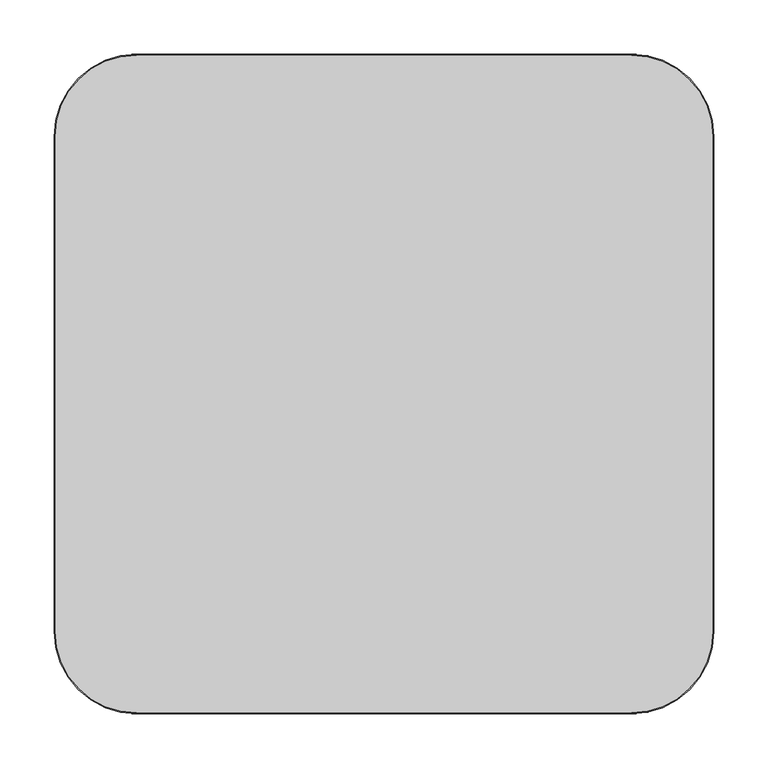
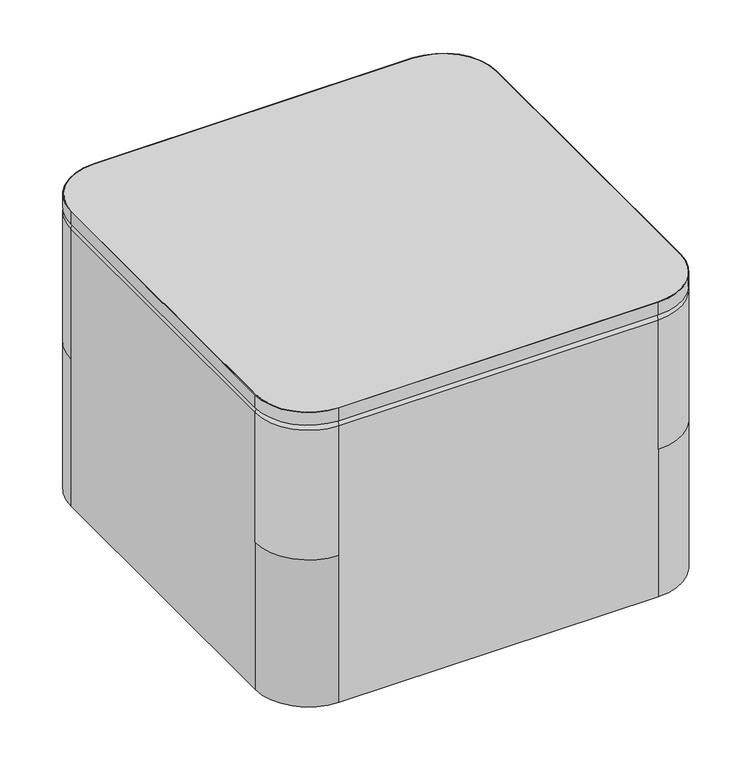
"""IFC4 building model written with IfcOpenShell, lengths in millimetres: furniture geometry, Indiana-Otty-Ottoman_Square_Table : 840-2418SOT."""

from ifc_helpers import new_model, si_unit, point, frame, frame_2d, origin, place, context, project, spatial, polyline, circle_curve, ellipse_curve, trimmed, segment, composite_curve, outline, extrude, source, transform, mapped, element, save
from ifc_brep_helpers import plane_surface, cylinder_surface, revolved_surface, advanced_brep


def furniture_fd8d8a9c(model_context):
    return source(origin(), model_context, "Body", "SolidModel", [
        extrude(outline(composite_curve([segment(trimmed(circle_curve(frame_2d((228.6, 228.6)), 75.2078125), [point((228.6, 303.8078125))], [point((303.8078125, 228.6))], False, "CARTESIAN"), True, "CONTINUOUS"), segment(polyline([(303.8078125, 228.6), (303.8078125, -228.6)]), True, "CONTINUOUS"), segment(trimmed(circle_curve(frame_2d((228.6, -228.6)), 75.2078125), [point((303.8078125, -228.6))], [point((228.6, -303.8078125))], False, "CARTESIAN"), True, "CONTINUOUS"), segment(polyline([(228.6, -303.8078125), (-228.6, -303.8078125)]), True, "CONTINUOUS"), segment(trimmed(circle_curve(frame_2d((-228.6, -228.6)), 75.2078125), [point((-228.6, -303.8078125))], [point((-303.8078125, -228.6))], False, "CARTESIAN"), True, "CONTINUOUS"), segment(polyline([(-303.8078125, -228.6), (-303.8078125, 228.6)]), True, "CONTINUOUS"), segment(trimmed(circle_curve(frame_2d((-228.6, 228.6)), 75.2078125), [point((-303.8078125, 228.6))], [point((-228.6, 303.8078125))], False, "CARTESIAN"), True, "CONTINUOUS"), segment(polyline([(-228.6, 303.8078125), (228.6, 303.8078125)]), True, "CONTINUOUS")], self_intersect=False)), frame((0.0, 0.0, 438.15), z_axis=(0.0, 0.0, 1.0), x_axis=(1.0, 0.0, 0.0)), (0.0, 0.0, 1.0), 19.05),
        extrude(outline(composite_curve([segment(polyline([(-304.8, -228.6), (-304.8, 228.6)]), True, "CONTINUOUS"), segment(trimmed(circle_curve(frame_2d((-228.6, 228.6)), 76.2), [point((-304.8, 228.6))], [point((-228.6, 304.8))], False, "CARTESIAN"), True, "CONTINUOUS"), segment(polyline([(-228.6, 304.8), (228.6, 304.8)]), True, "CONTINUOUS"), segment(trimmed(circle_curve(frame_2d((228.6, 228.6)), 76.2), [point((228.6, 304.8))], [point((304.8, 228.6))], False, "CARTESIAN"), True, "CONTINUOUS"), segment(polyline([(304.8, 228.6), (304.8, -228.6)]), True, "CONTINUOUS"), segment(trimmed(circle_curve(frame_2d((228.6, -228.6)), 76.2), [point((304.8, -228.6))], [point((228.6, -304.8))], False, "CARTESIAN"), True, "CONTINUOUS"), segment(polyline([(228.6, -304.8), (-228.6, -304.8)]), True, "CONTINUOUS"), segment(trimmed(circle_curve(frame_2d((-228.6, -228.6)), 76.2), [point((-228.6, -304.8))], [point((-304.8, -228.6))], False, "CARTESIAN"), True, "CONTINUOUS")], self_intersect=False), holes=[composite_curve([segment(polyline([(228.6, 303.8078125), (-228.6, 303.8078125)]), True, "CONTINUOUS"), segment(trimmed(circle_curve(frame_2d((-228.6, 228.6)), 75.2078125), [point((-228.6, 303.8078125))], [point((-303.8078125, 228.6))], True, "CARTESIAN"), True, "CONTINUOUS"), segment(polyline([(-303.8078125, 228.6), (-303.8078125, -228.6)]), True, "CONTINUOUS"), segment(trimmed(circle_curve(frame_2d((-228.6, -228.6)), 75.2078125), [point((-303.8078125, -228.6))], [point((-228.6, -303.8078125))], True, "CARTESIAN"), True, "CONTINUOUS"), segment(polyline([(-228.6, -303.8078125), (228.6, -303.8078125)]), True, "CONTINUOUS"), segment(trimmed(circle_curve(frame_2d((228.6, -228.6)), 75.2078125), [point((228.6, -303.8078125))], [point((303.8078125, -228.6))], True, "CARTESIAN"), True, "CONTINUOUS"), segment(polyline([(303.8078125, -228.6), (303.8078125, 228.6)]), True, "CONTINUOUS"), segment(trimmed(circle_curve(frame_2d((228.6, 228.6)), 75.2078125), [point((303.8078125, 228.6))], [point((228.6, 303.8078125))], True, "CARTESIAN"), True, "CONTINUOUS")], self_intersect=False)]), frame((0.0, 0.0, 438.15), z_axis=(0.0, 0.0, 1.0), x_axis=(1.0, 0.0, 0.0)), (0.0, 0.0, 1.0), 19.05),
        advanced_brep(
        [(0.0, -250.825, 19.8875), (0.0, -273.325, 19.8875), (0.0, -228.325, 19.8875), (0.0, -272.8765082, 4.2458827), (0.0, -228.7734918, 4.2458827), (0.0, -268.3913665, -0.1125), (0.0, -233.2586335, -0.1125), (0.0, -261.0926178, -0.1125), (0.0, -240.5573822, -0.1125), (0.0, -257.1981417, 3.9179615), (0.0, -244.4518583, 3.9179615), (0.0, -250.825, 3.9179615)],
        [
            (0, 1),
            (1, 2, circle_curve(frame((0.0, -250.825, 19.8875), z_axis=(0.0, 0.0, 1.0), x_axis=(0.0, -1.0, 0.0)), 22.5)),
            (2, 0),
            (2, 1, circle_curve(frame((0.0, -250.825, 19.8875), z_axis=(0.0, 0.0, 1.0), x_axis=(0.0, -1.0, 0.0)), 22.5)),
            (1, 3),
            (3, 4, circle_curve(frame((0.0, -250.825, 4.2458827), z_axis=(0.0, 0.0, 1.0), x_axis=(0.0, -1.0, 0.0)), 22.0515082)),
            (4, 2),
            (4, 3, circle_curve(frame((0.0, -250.825, 4.2458827), z_axis=(0.0, 0.0, 1.0), x_axis=(0.0, -1.0, 0.0)), 22.0515082)),
            (3, 5, circle_curve(frame((0.0, -268.3913665, 4.3744851), z_axis=(1.0, 0.0, 0.0), x_axis=(0.0, 1.0, 0.0)), 4.4869851)),
            (5, 6, circle_curve(frame((0.0, -250.825, -0.1125), z_axis=(0.0, 0.0, 1.0), x_axis=(0.0, -1.0, 0.0)), 17.5663665)),
            (6, 4, circle_curve(frame((0.0, -233.2586335, 4.3744851), z_axis=(1.0, 0.0, 0.0), x_axis=(0.0, -1.0, 0.0)), 4.4869851)),
            (6, 5, circle_curve(frame((0.0, -250.825, -0.1125), z_axis=(0.0, 0.0, 1.0), x_axis=(0.0, -1.0, 0.0)), 17.5663665)),
            (5, 7),
            (7, 8, circle_curve(frame((0.0, -250.825, -0.1125), z_axis=(0.0, 0.0, 1.0), x_axis=(0.0, -1.0, 0.0)), 10.2676178)),
            (8, 6),
            (8, 7, circle_curve(frame((0.0, -250.825, -0.1125), z_axis=(0.0, 0.0, 1.0), x_axis=(0.0, -1.0, 0.0)), 10.2676178)),
            (7, 9, circle_curve(frame((0.0, -261.0926178, 3.7842702), z_axis=(1.0, 0.0, 0.0), x_axis=(0.0, 1.0, 0.0)), 3.8967702)),
            (9, 10, circle_curve(frame((0.0, -250.825, 3.9179615), z_axis=(0.0, 0.0, 1.0), x_axis=(0.0, -1.0, 0.0)), 6.3731417)),
            (10, 8, circle_curve(frame((0.0, -240.5573822, 3.7842702), z_axis=(1.0, 0.0, 0.0), x_axis=(0.0, -1.0, 0.0)), 3.8967702)),
            (10, 9, circle_curve(frame((0.0, -250.825, 3.9179615), z_axis=(0.0, 0.0, 1.0), x_axis=(0.0, -1.0, 0.0)), 6.3731417)),
            (9, 11),
            (11, 10),
        ],
        [
            plane_surface(frame((0.0, -250.825, 19.8875), z_axis=(0.0, 0.0, 1.0), x_axis=(0.0, -1.0, 0.0))),
            revolved_surface(polyline([(0.0, -272.8765082, 4.2458827), (0.0, -273.325, 19.8875)]), (0.0, -250.825, 31.0803862), (0.0, 0.0, 1.0)),
            revolved_surface(trimmed(ellipse_curve(frame((0.0, -268.3913665, 4.3744851), z_axis=(-1.0, 0.0, 0.0), x_axis=(0.0, 1.0, 0.0)), 4.4869851, 4.4869851), [point((0.0, -268.3913665, -0.1125))], [point((0.0, -272.8765082, 4.2458827))], True, "CARTESIAN"), (0.0, -250.825, 31.0803862), (0.0, 0.0, 1.0)),
            plane_surface(frame((0.0, -250.825, -0.1125), z_axis=(0.0, 0.0, -1.0), x_axis=(0.0, -1.0, 0.0))),
            revolved_surface(trimmed(ellipse_curve(frame((0.0, -261.0926178, 3.7842702), z_axis=(-1.0, 0.0, 0.0), x_axis=(0.0, 1.0, 0.0)), 3.8967702, 3.8967702), [point((0.0, -257.1981417, 3.9179615))], [point((0.0, -261.0926178, -0.1125))], True, "CARTESIAN"), (0.0, -250.825, 31.0803862), (0.0, 0.0, 1.0)),
            plane_surface(frame((0.0, -250.825, 3.9179615), z_axis=(0.0, 0.0, -1.0), x_axis=(0.0, -1.0, 0.0))),
        ],
        [
            (0, [[1, 2, 3]]),
            (0, [[-3, 4, -1]]),
            (1, [[-2, 5, 6, 7]]),
            (1, [[-4, -7, 8, -5]]),
            (2, [[-6, 9, 10, 11]]),
            (2, [[-8, -11, 12, -9]]),
            (3, [[-10, 13, 14, 15]]),
            (3, [[-12, -15, 16, -13]]),
            (4, [[-14, 17, 18, 19]]),
            (4, [[-16, -19, 20, -17]]),
            (5, [[-18, 21, 22]]),
            (5, [[-20, -22, -21]]),
        ],
    ),
        advanced_brep(
        [(0.0, 250.825, 19.8875), (0.0, 228.325, 19.8875), (0.0, 273.325, 19.8875), (0.0, 228.7734918, 4.2458827), (0.0, 272.8765082, 4.2458827), (0.0, 233.2586335, -0.1125), (0.0, 268.3913665, -0.1125), (0.0, 240.5573822, -0.1125), (0.0, 261.0926178, -0.1125), (0.0, 244.4518583, 3.9179615), (0.0, 257.1981417, 3.9179615), (0.0, 250.825, 3.9179615)],
        [
            (0, 1),
            (1, 2, circle_curve(frame((0.0, 250.825, 19.8875), z_axis=(0.0, 0.0, 1.0), x_axis=(0.0, -1.0, 0.0)), 22.5)),
            (2, 0),
            (2, 1, circle_curve(frame((0.0, 250.825, 19.8875), z_axis=(0.0, 0.0, 1.0), x_axis=(0.0, -1.0, 0.0)), 22.5)),
            (1, 3),
            (3, 4, circle_curve(frame((0.0, 250.825, 4.2458827), z_axis=(0.0, 0.0, 1.0), x_axis=(0.0, -1.0, 0.0)), 22.0515082)),
            (4, 2),
            (4, 3, circle_curve(frame((0.0, 250.825, 4.2458827), z_axis=(0.0, 0.0, 1.0), x_axis=(0.0, -1.0, 0.0)), 22.0515082)),
            (3, 5, circle_curve(frame((0.0, 233.2586335, 4.3744851), z_axis=(1.0, 0.0, 0.0), x_axis=(0.0, 1.0, 0.0)), 4.4869851)),
            (5, 6, circle_curve(frame((0.0, 250.825, -0.1125), z_axis=(0.0, 0.0, 1.0), x_axis=(0.0, -1.0, 0.0)), 17.5663665)),
            (6, 4, circle_curve(frame((0.0, 268.3913665, 4.3744851), z_axis=(1.0, 0.0, 0.0), x_axis=(0.0, -1.0, 0.0)), 4.4869851)),
            (6, 5, circle_curve(frame((0.0, 250.825, -0.1125), z_axis=(0.0, 0.0, 1.0), x_axis=(0.0, -1.0, 0.0)), 17.5663665)),
            (5, 7),
            (7, 8, circle_curve(frame((0.0, 250.825, -0.1125), z_axis=(0.0, 0.0, 1.0), x_axis=(0.0, -1.0, 0.0)), 10.2676178)),
            (8, 6),
            (8, 7, circle_curve(frame((0.0, 250.825, -0.1125), z_axis=(0.0, 0.0, 1.0), x_axis=(0.0, -1.0, 0.0)), 10.2676178)),
            (7, 9, circle_curve(frame((0.0, 240.5573822, 3.7842702), z_axis=(1.0, 0.0, 0.0), x_axis=(0.0, 1.0, 0.0)), 3.8967702)),
            (9, 10, circle_curve(frame((0.0, 250.825, 3.9179615), z_axis=(0.0, 0.0, 1.0), x_axis=(0.0, -1.0, 0.0)), 6.3731417)),
            (10, 8, circle_curve(frame((0.0, 261.0926178, 3.7842702), z_axis=(1.0, 0.0, 0.0), x_axis=(0.0, -1.0, 0.0)), 3.8967702)),
            (10, 9, circle_curve(frame((0.0, 250.825, 3.9179615), z_axis=(0.0, 0.0, 1.0), x_axis=(0.0, -1.0, 0.0)), 6.3731417)),
            (9, 11),
            (11, 10),
        ],
        [
            plane_surface(frame((0.0, 250.825, 19.8875), z_axis=(0.0, 0.0, 1.0), x_axis=(0.0, -1.0, 0.0))),
            revolved_surface(polyline([(0.0, 228.7734918, 4.2458827), (0.0, 228.325, 19.8875)]), (0.0, 250.825, 31.0803862), (0.0, 0.0, 1.0)),
            revolved_surface(trimmed(ellipse_curve(frame((0.0, 233.2586335, 4.3744851), z_axis=(-1.0, 0.0, 0.0), x_axis=(0.0, 1.0, 0.0)), 4.4869851, 4.4869851), [point((0.0, 233.2586335, -0.1125))], [point((0.0, 228.7734918, 4.2458827))], True, "CARTESIAN"), (0.0, 250.825, 31.0803862), (0.0, 0.0, 1.0)),
            plane_surface(frame((0.0, 250.825, -0.1125), z_axis=(0.0, 0.0, -1.0), x_axis=(0.0, -1.0, 0.0))),
            revolved_surface(trimmed(ellipse_curve(frame((0.0, 240.5573822, 3.7842702), z_axis=(-1.0, 0.0, 0.0), x_axis=(0.0, 1.0, 0.0)), 3.8967702, 3.8967702), [point((0.0, 244.4518583, 3.9179615))], [point((0.0, 240.5573822, -0.1125))], True, "CARTESIAN"), (0.0, 250.825, 31.0803862), (0.0, 0.0, 1.0)),
            plane_surface(frame((0.0, 250.825, 3.9179615), z_axis=(0.0, 0.0, -1.0), x_axis=(0.0, -1.0, 0.0))),
        ],
        [
            (0, [[1, 2, 3]]),
            (0, [[-3, 4, -1]]),
            (1, [[-2, 5, 6, 7]]),
            (1, [[-4, -7, 8, -5]]),
            (2, [[-6, 9, 10, 11]]),
            (2, [[-8, -11, 12, -9]]),
            (3, [[-10, 13, 14, 15]]),
            (3, [[-12, -15, 16, -13]]),
            (4, [[-14, 17, 18, 19]]),
            (4, [[-16, -19, 20, -17]]),
            (5, [[-18, 21, 22]]),
            (5, [[-20, -22, -21]]),
        ],
    ),
        advanced_brep(
        [(250.825, -250.825, 19.8875), (250.825, -273.325, 19.8875), (250.825, -228.325, 19.8875), (250.825, -272.8765082, 4.2458827), (250.825, -228.7734918, 4.2458827), (250.825, -268.3913665, -0.1125), (250.825, -233.2586335, -0.1125), (250.825, -261.0926178, -0.1125), (250.825, -240.5573822, -0.1125), (250.825, -257.1981417, 3.9179615), (250.825, -244.4518583, 3.9179615), (250.825, -250.825, 3.9179615)],
        [
            (0, 1),
            (1, 2, circle_curve(frame((250.825, -250.825, 19.8875), z_axis=(0.0, 0.0, 1.0), x_axis=(0.0, -1.0, 0.0)), 22.5)),
            (2, 0),
            (2, 1, circle_curve(frame((250.825, -250.825, 19.8875), z_axis=(0.0, 0.0, 1.0), x_axis=(0.0, -1.0, 0.0)), 22.5)),
            (1, 3),
            (3, 4, circle_curve(frame((250.825, -250.825, 4.2458827), z_axis=(0.0, 0.0, 1.0), x_axis=(0.0, -1.0, 0.0)), 22.0515082)),
            (4, 2),
            (4, 3, circle_curve(frame((250.825, -250.825, 4.2458827), z_axis=(0.0, 0.0, 1.0), x_axis=(0.0, -1.0, 0.0)), 22.0515082)),
            (3, 5, circle_curve(frame((250.825, -268.3913665, 4.3744851), z_axis=(1.0, 0.0, 0.0), x_axis=(0.0, 1.0, 0.0)), 4.4869851)),
            (5, 6, circle_curve(frame((250.825, -250.825, -0.1125), z_axis=(0.0, 0.0, 1.0), x_axis=(0.0, -1.0, 0.0)), 17.5663665)),
            (6, 4, circle_curve(frame((250.825, -233.2586335, 4.3744851), z_axis=(1.0, 0.0, 0.0), x_axis=(0.0, -1.0, 0.0)), 4.4869851)),
            (6, 5, circle_curve(frame((250.825, -250.825, -0.1125), z_axis=(0.0, 0.0, 1.0), x_axis=(0.0, -1.0, 0.0)), 17.5663665)),
            (5, 7),
            (7, 8, circle_curve(frame((250.825, -250.825, -0.1125), z_axis=(0.0, 0.0, 1.0), x_axis=(0.0, -1.0, 0.0)), 10.2676178)),
            (8, 6),
            (8, 7, circle_curve(frame((250.825, -250.825, -0.1125), z_axis=(0.0, 0.0, 1.0), x_axis=(0.0, -1.0, 0.0)), 10.2676178)),
            (7, 9, circle_curve(frame((250.825, -261.0926178, 3.7842702), z_axis=(1.0, 0.0, 0.0), x_axis=(0.0, 1.0, 0.0)), 3.8967702)),
            (9, 10, circle_curve(frame((250.825, -250.825, 3.9179615), z_axis=(0.0, 0.0, 1.0), x_axis=(0.0, -1.0, 0.0)), 6.3731417)),
            (10, 8, circle_curve(frame((250.825, -240.5573822, 3.7842702), z_axis=(1.0, 0.0, 0.0), x_axis=(0.0, -1.0, 0.0)), 3.8967702)),
            (10, 9, circle_curve(frame((250.825, -250.825, 3.9179615), z_axis=(0.0, 0.0, 1.0), x_axis=(0.0, -1.0, 0.0)), 6.3731417)),
            (9, 11),
            (11, 10),
        ],
        [
            plane_surface(frame((250.825, -250.825, 19.8875), z_axis=(0.0, 0.0, 1.0), x_axis=(0.0, -1.0, 0.0))),
            revolved_surface(polyline([(250.825, -272.8765082, 4.2458827), (250.825, -273.325, 19.8875)]), (250.825, -250.825, 31.0803862), (0.0, 0.0, 1.0)),
            revolved_surface(trimmed(ellipse_curve(frame((250.825, -268.3913665, 4.3744851), z_axis=(-1.0, 0.0, 0.0), x_axis=(0.0, 1.0, 0.0)), 4.4869851, 4.4869851), [point((250.825, -268.3913665, -0.1125))], [point((250.825, -272.8765082, 4.2458827))], True, "CARTESIAN"), (250.825, -250.825, 31.0803862), (0.0, 0.0, 1.0)),
            plane_surface(frame((250.825, -250.825, -0.1125), z_axis=(0.0, 0.0, -1.0), x_axis=(0.0, -1.0, 0.0))),
            revolved_surface(trimmed(ellipse_curve(frame((250.825, -261.0926178, 3.7842702), z_axis=(-1.0, 0.0, 0.0), x_axis=(0.0, 1.0, 0.0)), 3.8967702, 3.8967702), [point((250.825, -257.1981417, 3.9179615))], [point((250.825, -261.0926178, -0.1125))], True, "CARTESIAN"), (250.825, -250.825, 31.0803862), (0.0, 0.0, 1.0)),
            plane_surface(frame((250.825, -250.825, 3.9179615), z_axis=(0.0, 0.0, -1.0), x_axis=(0.0, -1.0, 0.0))),
        ],
        [
            (0, [[1, 2, 3]]),
            (0, [[-3, 4, -1]]),
            (1, [[-2, 5, 6, 7]]),
            (1, [[-4, -7, 8, -5]]),
            (2, [[-6, 9, 10, 11]]),
            (2, [[-8, -11, 12, -9]]),
            (3, [[-10, 13, 14, 15]]),
            (3, [[-12, -15, 16, -13]]),
            (4, [[-14, 17, 18, 19]]),
            (4, [[-16, -19, 20, -17]]),
            (5, [[-18, 21, 22]]),
            (5, [[-20, -22, -21]]),
        ],
    ),
        advanced_brep(
        [(250.825, 250.825, 19.8875), (250.825, 228.325, 19.8875), (250.825, 273.325, 19.8875), (250.825, 228.7734918, 4.2458827), (250.825, 272.8765082, 4.2458827), (250.825, 233.2586335, -0.1125), (250.825, 268.3913665, -0.1125), (250.825, 240.5573822, -0.1125), (250.825, 261.0926178, -0.1125), (250.825, 244.4518583, 3.9179615), (250.825, 257.1981417, 3.9179615), (250.825, 250.825, 3.9179615)],
        [
            (0, 1),
            (1, 2, circle_curve(frame((250.825, 250.825, 19.8875), z_axis=(0.0, 0.0, 1.0), x_axis=(0.0, -1.0, 0.0)), 22.5)),
            (2, 0),
            (2, 1, circle_curve(frame((250.825, 250.825, 19.8875), z_axis=(0.0, 0.0, 1.0), x_axis=(0.0, -1.0, 0.0)), 22.5)),
            (1, 3),
            (3, 4, circle_curve(frame((250.825, 250.825, 4.2458827), z_axis=(0.0, 0.0, 1.0), x_axis=(0.0, -1.0, 0.0)), 22.0515082)),
            (4, 2),
            (4, 3, circle_curve(frame((250.825, 250.825, 4.2458827), z_axis=(0.0, 0.0, 1.0), x_axis=(0.0, -1.0, 0.0)), 22.0515082)),
            (3, 5, circle_curve(frame((250.825, 233.2586335, 4.3744851), z_axis=(1.0, 0.0, 0.0), x_axis=(0.0, 1.0, 0.0)), 4.4869851)),
            (5, 6, circle_curve(frame((250.825, 250.825, -0.1125), z_axis=(0.0, 0.0, 1.0), x_axis=(0.0, -1.0, 0.0)), 17.5663665)),
            (6, 4, circle_curve(frame((250.825, 268.3913665, 4.3744851), z_axis=(1.0, 0.0, 0.0), x_axis=(0.0, -1.0, 0.0)), 4.4869851)),
            (6, 5, circle_curve(frame((250.825, 250.825, -0.1125), z_axis=(0.0, 0.0, 1.0), x_axis=(0.0, -1.0, 0.0)), 17.5663665)),
            (5, 7),
            (7, 8, circle_curve(frame((250.825, 250.825, -0.1125), z_axis=(0.0, 0.0, 1.0), x_axis=(0.0, -1.0, 0.0)), 10.2676178)),
            (8, 6),
            (8, 7, circle_curve(frame((250.825, 250.825, -0.1125), z_axis=(0.0, 0.0, 1.0), x_axis=(0.0, -1.0, 0.0)), 10.2676178)),
            (7, 9, circle_curve(frame((250.825, 240.5573822, 3.7842702), z_axis=(1.0, 0.0, 0.0), x_axis=(0.0, 1.0, 0.0)), 3.8967702)),
            (9, 10, circle_curve(frame((250.825, 250.825, 3.9179615), z_axis=(0.0, 0.0, 1.0), x_axis=(0.0, -1.0, 0.0)), 6.3731417)),
            (10, 8, circle_curve(frame((250.825, 261.0926178, 3.7842702), z_axis=(1.0, 0.0, 0.0), x_axis=(0.0, -1.0, 0.0)), 3.8967702)),
            (10, 9, circle_curve(frame((250.825, 250.825, 3.9179615), z_axis=(0.0, 0.0, 1.0), x_axis=(0.0, -1.0, 0.0)), 6.3731417)),
            (9, 11),
            (11, 10),
        ],
        [
            plane_surface(frame((250.825, 250.825, 19.8875), z_axis=(0.0, 0.0, 1.0), x_axis=(0.0, -1.0, 0.0))),
            revolved_surface(polyline([(250.825, 228.7734918, 4.2458827), (250.825, 228.325, 19.8875)]), (250.825, 250.825, 31.0803862), (0.0, 0.0, 1.0)),
            revolved_surface(trimmed(ellipse_curve(frame((250.825, 233.2586335, 4.3744851), z_axis=(-1.0, 0.0, 0.0), x_axis=(0.0, 1.0, 0.0)), 4.4869851, 4.4869851), [point((250.825, 233.2586335, -0.1125))], [point((250.825, 228.7734918, 4.2458827))], True, "CARTESIAN"), (250.825, 250.825, 31.0803862), (0.0, 0.0, 1.0)),
            plane_surface(frame((250.825, 250.825, -0.1125), z_axis=(0.0, 0.0, -1.0), x_axis=(0.0, -1.0, 0.0))),
            revolved_surface(trimmed(ellipse_curve(frame((250.825, 240.5573822, 3.7842702), z_axis=(-1.0, 0.0, 0.0), x_axis=(0.0, 1.0, 0.0)), 3.8967702, 3.8967702), [point((250.825, 244.4518583, 3.9179615))], [point((250.825, 240.5573822, -0.1125))], True, "CARTESIAN"), (250.825, 250.825, 31.0803862), (0.0, 0.0, 1.0)),
            plane_surface(frame((250.825, 250.825, 3.9179615), z_axis=(0.0, 0.0, -1.0), x_axis=(0.0, -1.0, 0.0))),
        ],
        [
            (0, [[1, 2, 3]]),
            (0, [[-3, 4, -1]]),
            (1, [[-2, 5, 6, 7]]),
            (1, [[-4, -7, 8, -5]]),
            (2, [[-6, 9, 10, 11]]),
            (2, [[-8, -11, 12, -9]]),
            (3, [[-10, 13, 14, 15]]),
            (3, [[-12, -15, 16, -13]]),
            (4, [[-14, 17, 18, 19]]),
            (4, [[-16, -19, 20, -17]]),
            (5, [[-18, 21, 22]]),
            (5, [[-20, -22, -21]]),
        ],
    ),
        advanced_brep(
        [(-250.825, -250.825, 19.8875), (-250.825, -273.325, 19.8875), (-250.825, -228.325, 19.8875), (-250.825, -272.8765082, 4.2458827), (-250.825, -228.7734918, 4.2458827), (-250.825, -268.3913665, -0.1125), (-250.825, -233.2586335, -0.1125), (-250.825, -261.0926178, -0.1125), (-250.825, -240.5573822, -0.1125), (-250.825, -257.1981417, 3.9179615), (-250.825, -244.4518583, 3.9179615), (-250.825, -250.825, 3.9179615)],
        [
            (0, 1),
            (1, 2, circle_curve(frame((-250.825, -250.825, 19.8875), z_axis=(0.0, 0.0, 1.0), x_axis=(0.0, -1.0, 0.0)), 22.5)),
            (2, 0),
            (2, 1, circle_curve(frame((-250.825, -250.825, 19.8875), z_axis=(0.0, 0.0, 1.0), x_axis=(0.0, -1.0, 0.0)), 22.5)),
            (1, 3),
            (3, 4, circle_curve(frame((-250.825, -250.825, 4.2458827), z_axis=(0.0, 0.0, 1.0), x_axis=(0.0, -1.0, 0.0)), 22.0515082)),
            (4, 2),
            (4, 3, circle_curve(frame((-250.825, -250.825, 4.2458827), z_axis=(0.0, 0.0, 1.0), x_axis=(0.0, -1.0, 0.0)), 22.0515082)),
            (3, 5, circle_curve(frame((-250.825, -268.3913665, 4.3744851), z_axis=(1.0, 0.0, 0.0), x_axis=(0.0, 1.0, 0.0)), 4.4869851)),
            (5, 6, circle_curve(frame((-250.825, -250.825, -0.1125), z_axis=(0.0, 0.0, 1.0), x_axis=(0.0, -1.0, 0.0)), 17.5663665)),
            (6, 4, circle_curve(frame((-250.825, -233.2586335, 4.3744851), z_axis=(1.0, 0.0, 0.0), x_axis=(0.0, -1.0, 0.0)), 4.4869851)),
            (6, 5, circle_curve(frame((-250.825, -250.825, -0.1125), z_axis=(0.0, 0.0, 1.0), x_axis=(0.0, -1.0, 0.0)), 17.5663665)),
            (5, 7),
            (7, 8, circle_curve(frame((-250.825, -250.825, -0.1125), z_axis=(0.0, 0.0, 1.0), x_axis=(0.0, -1.0, 0.0)), 10.2676178)),
            (8, 6),
            (8, 7, circle_curve(frame((-250.825, -250.825, -0.1125), z_axis=(0.0, 0.0, 1.0), x_axis=(0.0, -1.0, 0.0)), 10.2676178)),
            (7, 9, circle_curve(frame((-250.825, -261.0926178, 3.7842702), z_axis=(1.0, 0.0, 0.0), x_axis=(0.0, 1.0, 0.0)), 3.8967702)),
            (9, 10, circle_curve(frame((-250.825, -250.825, 3.9179615), z_axis=(0.0, 0.0, 1.0), x_axis=(0.0, -1.0, 0.0)), 6.3731417)),
            (10, 8, circle_curve(frame((-250.825, -240.5573822, 3.7842702), z_axis=(1.0, 0.0, 0.0), x_axis=(0.0, -1.0, 0.0)), 3.8967702)),
            (10, 9, circle_curve(frame((-250.825, -250.825, 3.9179615), z_axis=(0.0, 0.0, 1.0), x_axis=(0.0, -1.0, 0.0)), 6.3731417)),
            (9, 11),
            (11, 10),
        ],
        [
            plane_surface(frame((-250.825, -250.825, 19.8875), z_axis=(0.0, 0.0, 1.0), x_axis=(0.0, -1.0, 0.0))),
            revolved_surface(polyline([(-250.825, -272.8765082, 4.2458827), (-250.825, -273.325, 19.8875)]), (-250.825, -250.825, 31.0803862), (0.0, 0.0, 1.0)),
            revolved_surface(trimmed(ellipse_curve(frame((-250.825, -268.3913665, 4.3744851), z_axis=(-1.0, 0.0, 0.0), x_axis=(0.0, 1.0, 0.0)), 4.4869851, 4.4869851), [point((-250.825, -268.3913665, -0.1125))], [point((-250.825, -272.8765082, 4.2458827))], True, "CARTESIAN"), (-250.825, -250.825, 31.0803862), (0.0, 0.0, 1.0)),
            plane_surface(frame((-250.825, -250.825, -0.1125), z_axis=(0.0, 0.0, -1.0), x_axis=(0.0, -1.0, 0.0))),
            revolved_surface(trimmed(ellipse_curve(frame((-250.825, -261.0926178, 3.7842702), z_axis=(-1.0, 0.0, 0.0), x_axis=(0.0, 1.0, 0.0)), 3.8967702, 3.8967702), [point((-250.825, -257.1981417, 3.9179615))], [point((-250.825, -261.0926178, -0.1125))], True, "CARTESIAN"), (-250.825, -250.825, 31.0803862), (0.0, 0.0, 1.0)),
            plane_surface(frame((-250.825, -250.825, 3.9179615), z_axis=(0.0, 0.0, -1.0), x_axis=(0.0, -1.0, 0.0))),
        ],
        [
            (0, [[1, 2, 3]]),
            (0, [[-3, 4, -1]]),
            (1, [[-2, 5, 6, 7]]),
            (1, [[-4, -7, 8, -5]]),
            (2, [[-6, 9, 10, 11]]),
            (2, [[-8, -11, 12, -9]]),
            (3, [[-10, 13, 14, 15]]),
            (3, [[-12, -15, 16, -13]]),
            (4, [[-14, 17, 18, 19]]),
            (4, [[-16, -19, 20, -17]]),
            (5, [[-18, 21, 22]]),
            (5, [[-20, -22, -21]]),
        ],
    ),
        advanced_brep(
        [(-250.825, 250.825, 19.8875), (-250.825, 228.325, 19.8875), (-250.825, 273.325, 19.8875), (-250.825, 228.7734918, 4.2458827), (-250.825, 272.8765082, 4.2458827), (-250.825, 233.2586335, -0.1125), (-250.825, 268.3913665, -0.1125), (-250.825, 240.5573822, -0.1125), (-250.825, 261.0926178, -0.1125), (-250.825, 244.4518583, 3.9179615), (-250.825, 257.1981417, 3.9179615), (-250.825, 250.825, 3.9179615)],
        [
            (0, 1),
            (1, 2, circle_curve(frame((-250.825, 250.825, 19.8875), z_axis=(0.0, 0.0, 1.0), x_axis=(0.0, -1.0, 0.0)), 22.5)),
            (2, 0),
            (2, 1, circle_curve(frame((-250.825, 250.825, 19.8875), z_axis=(0.0, 0.0, 1.0), x_axis=(0.0, -1.0, 0.0)), 22.5)),
            (1, 3),
            (3, 4, circle_curve(frame((-250.825, 250.825, 4.2458827), z_axis=(0.0, 0.0, 1.0), x_axis=(0.0, -1.0, 0.0)), 22.0515082)),
            (4, 2),
            (4, 3, circle_curve(frame((-250.825, 250.825, 4.2458827), z_axis=(0.0, 0.0, 1.0), x_axis=(0.0, -1.0, 0.0)), 22.0515082)),
            (3, 5, circle_curve(frame((-250.825, 233.2586335, 4.3744851), z_axis=(1.0, 0.0, 0.0), x_axis=(0.0, 1.0, 0.0)), 4.4869851)),
            (5, 6, circle_curve(frame((-250.825, 250.825, -0.1125), z_axis=(0.0, 0.0, 1.0), x_axis=(0.0, -1.0, 0.0)), 17.5663665)),
            (6, 4, circle_curve(frame((-250.825, 268.3913665, 4.3744851), z_axis=(1.0, 0.0, 0.0), x_axis=(0.0, -1.0, 0.0)), 4.4869851)),
            (6, 5, circle_curve(frame((-250.825, 250.825, -0.1125), z_axis=(0.0, 0.0, 1.0), x_axis=(0.0, -1.0, 0.0)), 17.5663665)),
            (5, 7),
            (7, 8, circle_curve(frame((-250.825, 250.825, -0.1125), z_axis=(0.0, 0.0, 1.0), x_axis=(0.0, -1.0, 0.0)), 10.2676178)),
            (8, 6),
            (8, 7, circle_curve(frame((-250.825, 250.825, -0.1125), z_axis=(0.0, 0.0, 1.0), x_axis=(0.0, -1.0, 0.0)), 10.2676178)),
            (7, 9, circle_curve(frame((-250.825, 240.5573822, 3.7842702), z_axis=(1.0, 0.0, 0.0), x_axis=(0.0, 1.0, 0.0)), 3.8967702)),
            (9, 10, circle_curve(frame((-250.825, 250.825, 3.9179615), z_axis=(0.0, 0.0, 1.0), x_axis=(0.0, -1.0, 0.0)), 6.3731417)),
            (10, 8, circle_curve(frame((-250.825, 261.0926178, 3.7842702), z_axis=(1.0, 0.0, 0.0), x_axis=(0.0, -1.0, 0.0)), 3.8967702)),
            (10, 9, circle_curve(frame((-250.825, 250.825, 3.9179615), z_axis=(0.0, 0.0, 1.0), x_axis=(0.0, -1.0, 0.0)), 6.3731417)),
            (9, 11),
            (11, 10),
        ],
        [
            plane_surface(frame((-250.825, 250.825, 19.8875), z_axis=(0.0, 0.0, 1.0), x_axis=(0.0, -1.0, 0.0))),
            revolved_surface(polyline([(-250.825, 228.7734918, 4.2458827), (-250.825, 228.325, 19.8875)]), (-250.825, 250.825, 31.0803862), (0.0, 0.0, 1.0)),
            revolved_surface(trimmed(ellipse_curve(frame((-250.825, 233.2586335, 4.3744851), z_axis=(-1.0, 0.0, 0.0), x_axis=(0.0, 1.0, 0.0)), 4.4869851, 4.4869851), [point((-250.825, 233.2586335, -0.1125))], [point((-250.825, 228.7734918, 4.2458827))], True, "CARTESIAN"), (-250.825, 250.825, 31.0803862), (0.0, 0.0, 1.0)),
            plane_surface(frame((-250.825, 250.825, -0.1125), z_axis=(0.0, 0.0, -1.0), x_axis=(0.0, -1.0, 0.0))),
            revolved_surface(trimmed(ellipse_curve(frame((-250.825, 240.5573822, 3.7842702), z_axis=(-1.0, 0.0, 0.0), x_axis=(0.0, 1.0, 0.0)), 3.8967702, 3.8967702), [point((-250.825, 244.4518583, 3.9179615))], [point((-250.825, 240.5573822, -0.1125))], True, "CARTESIAN"), (-250.825, 250.825, 31.0803862), (0.0, 0.0, 1.0)),
            plane_surface(frame((-250.825, 250.825, 3.9179615), z_axis=(0.0, 0.0, -1.0), x_axis=(0.0, -1.0, 0.0))),
        ],
        [
            (0, [[1, 2, 3]]),
            (0, [[-3, 4, -1]]),
            (1, [[-2, 5, 6, 7]]),
            (1, [[-4, -7, 8, -5]]),
            (2, [[-6, 9, 10, 11]]),
            (2, [[-8, -11, 12, -9]]),
            (3, [[-10, 13, 14, 15]]),
            (3, [[-12, -15, 16, -13]]),
            (4, [[-14, 17, 18, 19]]),
            (4, [[-16, -19, 20, -17]]),
            (5, [[-18, 21, 22]]),
            (5, [[-20, -22, -21]]),
        ],
    ),
        advanced_brep(
        [(228.6, 304.8, 234.35), (228.6, 304.8, 430.2043778), (304.8, 228.6, 430.2043778), (304.8, 228.6, 234.35), (304.8, -228.6, 430.2043778), (304.8, -228.6, 234.35), (304.8, -228.6, 11.5), (304.8, 228.6, 11.5), (228.6, -304.8, 430.2043778), (228.6, -304.8, 234.35), (-228.6, -304.8, 430.2043778), (-228.6, -304.8, 234.35), (-228.6, -304.8, 11.5), (228.6, -304.8, 11.5), (-304.8, -228.6, 430.2043778), (-304.8, -228.6, 234.35), (-304.8, 228.6, 430.2043778), (-304.8, 228.6, 234.35), (-304.8, 228.6, 11.5), (-304.8, -228.6, 11.5), (-228.6, 304.8, 430.2043778), (-228.6, 304.8, 234.35), (228.6, 296.8543778, 438.15), (-228.6, 296.8543778, 438.15), (-296.8543778, 228.6, 438.15), (-296.8543778, -228.6, 438.15), (-228.6, -296.8543778, 438.15), (228.6, -296.8543778, 438.15), (296.8543778, -228.6, 438.15), (296.8543778, 228.6, 438.15), (228.6, 304.8, 11.5), (-228.6, 304.8, 11.5), (-273.84375, -250.825, 11.5), (-227.80625, -250.825, 11.5), (-273.84375, 250.825, 11.5), (-227.80625, 250.825, 11.5), (227.80625, 250.825, 11.5), (273.84375, 250.825, 11.5), (227.80625, -250.825, 11.5), (273.84375, -250.825, 11.5), (-23.01875, 250.825, 11.5), (23.01875, 250.825, 11.5), (-23.01875, -250.825, 11.5), (23.01875, -250.825, 11.5), (-227.80625, -250.825, 19.834375), (-273.84375, -250.825, 19.834375), (-227.80625, 250.825, 19.834375), (-273.84375, 250.825, 19.834375), (227.80625, 250.825, 19.834375), (273.84375, 250.825, 19.834375), (227.80625, -250.825, 19.834375), (273.84375, -250.825, 19.834375), (-23.01875, 250.825, 19.834375), (23.01875, 250.825, 19.834375), (-23.01875, -250.825, 19.834375), (23.01875, -250.825, 19.834375)],
        [
            (0, 1),
            (1, 2, circle_curve(frame((228.6, 228.6, 430.2043778), z_axis=(0.0, 0.0, -1.0), x_axis=(0.0, 1.0, 0.0)), 76.2)),
            (2, 3),
            (3, 0, circle_curve(frame((228.6, 228.6, 234.35), z_axis=(0.0, 0.0, 1.0), x_axis=(0.0, 1.0, 0.0)), 76.2)),
            (2, 4),
            (4, 5),
            (5, 6),
            (6, 7),
            (7, 3),
            (4, 8, circle_curve(frame((228.6, -228.6, 430.2043778), z_axis=(0.0, 0.0, -1.0), x_axis=(1.0, 0.0, 0.0)), 76.2)),
            (8, 9),
            (9, 5, circle_curve(frame((228.6, -228.6, 234.35), z_axis=(0.0, 0.0, 1.0), x_axis=(1.0, 0.0, 0.0)), 76.2)),
            (8, 10),
            (10, 11),
            (11, 12),
            (12, 13),
            (13, 9),
            (10, 14, circle_curve(frame((-228.6, -228.6, 430.2043778), z_axis=(0.0, 0.0, -1.0), x_axis=(0.0, -1.0, 0.0)), 76.2)),
            (14, 15),
            (15, 11, circle_curve(frame((-228.6, -228.6, 234.35), z_axis=(0.0, 0.0, 1.0), x_axis=(0.0, -1.0, 0.0)), 76.2)),
            (14, 16),
            (16, 17),
            (17, 18),
            (18, 19),
            (19, 15),
            (16, 20, circle_curve(frame((-228.6, 228.6, 430.2043778), z_axis=(0.0, 0.0, -1.0), x_axis=(-1.0, 0.0, 0.0)), 76.2)),
            (20, 21),
            (21, 17, circle_curve(frame((-228.6, 228.6, 234.35), z_axis=(0.0, 0.0, 1.0), x_axis=(-1.0, 0.0, 0.0)), 76.2)),
            (22, 23),
            (23, 24, circle_curve(frame((-228.6, 228.6, 438.15), z_axis=(0.0, 0.0, 1.0), x_axis=(-1.0, 0.0, 0.0)), 68.2543778)),
            (24, 25),
            (25, 26, circle_curve(frame((-228.6, -228.6, 438.15), z_axis=(0.0, 0.0, 1.0), x_axis=(0.0, -1.0, 0.0)), 68.2543778)),
            (26, 27),
            (27, 28, circle_curve(frame((228.6, -228.6, 438.15), z_axis=(0.0, 0.0, 1.0), x_axis=(1.0, 0.0, 0.0)), 68.2543778)),
            (28, 29),
            (29, 22, circle_curve(frame((228.6, 228.6, 438.15), z_axis=(0.0, 0.0, 1.0), x_axis=(0.0, 1.0, 0.0)), 68.2543778)),
            (0, 30),
            (30, 31),
            (31, 21),
            (20, 1),
            (30, 7, circle_curve(frame((228.6, 228.6, 11.5), z_axis=(0.0, 0.0, -1.0), x_axis=(1.0, 0.0, 0.0)), 76.2)),
            (6, 13, circle_curve(frame((228.6, -228.6, 11.5), z_axis=(0.0, 0.0, -1.0), x_axis=(1.0, 0.0, 0.0)), 76.2)),
            (12, 19, circle_curve(frame((-228.6, -228.6, 11.5), z_axis=(0.0, 0.0, -1.0), x_axis=(1.0, 0.0, 0.0)), 76.2)),
            (18, 31, circle_curve(frame((-228.6, 228.6, 11.5), z_axis=(0.0, 0.0, -1.0), x_axis=(1.0, 0.0, 0.0)), 76.2)),
            (32, 33, circle_curve(frame((-250.825, -250.825, 11.5), z_axis=(0.0, 0.0, 1.0), x_axis=(-1.0, 0.0, 0.0)), 23.01875)),
            (33, 32, circle_curve(frame((-250.825, -250.825, 11.5), z_axis=(0.0, 0.0, 1.0), x_axis=(-1.0, 0.0, 0.0)), 23.01875)),
            (34, 35, circle_curve(frame((-250.825, 250.825, 11.5), z_axis=(0.0, 0.0, 1.0), x_axis=(-1.0, 0.0, 0.0)), 23.01875)),
            (35, 34, circle_curve(frame((-250.825, 250.825, 11.5), z_axis=(0.0, 0.0, 1.0), x_axis=(-1.0, 0.0, 0.0)), 23.01875)),
            (36, 37, circle_curve(frame((250.825, 250.825, 11.5), z_axis=(0.0, 0.0, 1.0), x_axis=(-1.0, 0.0, 0.0)), 23.01875)),
            (37, 36, circle_curve(frame((250.825, 250.825, 11.5), z_axis=(0.0, 0.0, 1.0), x_axis=(-1.0, 0.0, 0.0)), 23.01875)),
            (38, 39, circle_curve(frame((250.825, -250.825, 11.5), z_axis=(0.0, 0.0, 1.0), x_axis=(-1.0, 0.0, 0.0)), 23.01875)),
            (39, 38, circle_curve(frame((250.825, -250.825, 11.5), z_axis=(0.0, 0.0, 1.0), x_axis=(-1.0, 0.0, 0.0)), 23.01875)),
            (40, 41, circle_curve(frame((0.0, 250.825, 11.5), z_axis=(0.0, 0.0, 1.0), x_axis=(-1.0, 0.0, 0.0)), 23.01875)),
            (41, 40, circle_curve(frame((0.0, 250.825, 11.5), z_axis=(0.0, 0.0, 1.0), x_axis=(-1.0, 0.0, 0.0)), 23.01875)),
            (42, 43, circle_curve(frame((0.0, -250.825, 11.5), z_axis=(0.0, 0.0, 1.0), x_axis=(-1.0, 0.0, 0.0)), 23.01875)),
            (43, 42, circle_curve(frame((0.0, -250.825, 11.5), z_axis=(0.0, 0.0, 1.0), x_axis=(-1.0, 0.0, 0.0)), 23.01875)),
            (44, 45, circle_curve(frame((-250.825, -250.825, 19.834375), z_axis=(0.0, 0.0, -1.0), x_axis=(-1.0, 0.0, 0.0)), 23.01875)),
            (45, 44, circle_curve(frame((-250.825, -250.825, 19.834375), z_axis=(0.0, 0.0, -1.0), x_axis=(-1.0, 0.0, 0.0)), 23.01875)),
            (32, 45),
            (44, 33),
            (46, 47, circle_curve(frame((-250.825, 250.825, 19.834375), z_axis=(0.0, 0.0, -1.0), x_axis=(-1.0, 0.0, 0.0)), 23.01875)),
            (47, 46, circle_curve(frame((-250.825, 250.825, 19.834375), z_axis=(0.0, 0.0, -1.0), x_axis=(-1.0, 0.0, 0.0)), 23.01875)),
            (34, 47),
            (46, 35),
            (36, 48),
            (48, 49, circle_curve(frame((250.825, 250.825, 19.834375), z_axis=(0.0, 0.0, 1.0), x_axis=(-1.0, 0.0, 0.0)), 23.01875)),
            (49, 37),
            (49, 48, circle_curve(frame((250.825, 250.825, 19.834375), z_axis=(0.0, 0.0, 1.0), x_axis=(-1.0, 0.0, 0.0)), 23.01875)),
            (38, 50),
            (50, 51, circle_curve(frame((250.825, -250.825, 19.834375), z_axis=(0.0, 0.0, 1.0), x_axis=(-1.0, 0.0, 0.0)), 23.01875)),
            (51, 39),
            (51, 50, circle_curve(frame((250.825, -250.825, 19.834375), z_axis=(0.0, 0.0, 1.0), x_axis=(-1.0, 0.0, 0.0)), 23.01875)),
            (40, 52),
            (52, 53, circle_curve(frame((0.0, 250.825, 19.834375), z_axis=(0.0, 0.0, 1.0), x_axis=(-1.0, 0.0, 0.0)), 23.01875)),
            (53, 41),
            (53, 52, circle_curve(frame((0.0, 250.825, 19.834375), z_axis=(0.0, 0.0, 1.0), x_axis=(-1.0, 0.0, 0.0)), 23.01875)),
            (42, 54),
            (54, 55, circle_curve(frame((0.0, -250.825, 19.834375), z_axis=(0.0, 0.0, 1.0), x_axis=(-1.0, 0.0, 0.0)), 23.01875)),
            (55, 43),
            (55, 54, circle_curve(frame((0.0, -250.825, 19.834375), z_axis=(0.0, 0.0, 1.0), x_axis=(-1.0, 0.0, 0.0)), 23.01875)),
            (1, 22, circle_curve(frame((228.6, 296.8543778, 430.2043778), z_axis=(1.0, 0.0, 0.0), x_axis=(0.0, 1.0, 0.0)), 7.9456222)),
            (29, 2, circle_curve(frame((296.8543778, 228.6, 430.2043778), z_axis=(0.0, 1.0, 0.0), x_axis=(1.0, 0.0, 0.0)), 7.9456222)),
            (28, 4, circle_curve(frame((296.8543778, -228.6, 430.2043778), z_axis=(0.0, 1.0, 0.0), x_axis=(1.0, 0.0, 0.0)), 7.9456222)),
            (27, 8, circle_curve(frame((228.6, -296.8543778, 430.2043778), z_axis=(1.0, 0.0, 0.0), x_axis=(0.0, -1.0, 0.0)), 7.9456222)),
            (26, 10, circle_curve(frame((-228.6, -296.8543778, 430.2043778), z_axis=(1.0, 0.0, 0.0), x_axis=(0.0, -1.0, 0.0)), 7.9456222)),
            (25, 14, circle_curve(frame((-296.8543778, -228.6, 430.2043778), z_axis=(0.0, -1.0, 0.0), x_axis=(-1.0, 0.0, 0.0)), 7.9456222)),
            (24, 16, circle_curve(frame((-296.8543778, 228.6, 430.2043778), z_axis=(0.0, -1.0, 0.0), x_axis=(-1.0, 0.0, 0.0)), 7.9456222)),
            (23, 20, circle_curve(frame((-228.6, 296.8543778, 430.2043778), z_axis=(-1.0, 0.0, 0.0), x_axis=(0.0, 1.0, 0.0)), 7.9456222)),
        ],
        [
            cylinder_surface(frame((228.6, 228.6, 0.0), z_axis=(0.0, 0.0, -1.0), x_axis=(0.0, 1.0, 0.0)), 76.2),
            plane_surface(frame((304.8, 228.6, 430.2043778), z_axis=(1.0, 0.0, 0.0), x_axis=(0.0, -1.0, 0.0))),
            cylinder_surface(frame((228.6, -228.6, 0.0), z_axis=(0.0, 0.0, -1.0), x_axis=(1.0, 0.0, 0.0)), 76.2),
            plane_surface(frame((228.6, -304.8, 430.2043778), z_axis=(0.0, -1.0, 0.0), x_axis=(-1.0, 0.0, 0.0))),
            cylinder_surface(frame((-228.6, -228.6, 0.0), z_axis=(0.0, 0.0, -1.0), x_axis=(0.0, -1.0, 0.0)), 76.2),
            plane_surface(frame((-304.8, -228.6, 430.2043778), z_axis=(-1.0, 0.0, 0.0), x_axis=(0.0, 1.0, 0.0))),
            cylinder_surface(frame((-228.6, 228.6, 0.0), z_axis=(0.0, 0.0, -1.0), x_axis=(-1.0, 0.0, 0.0)), 76.2),
            plane_surface(frame((-228.6, 231.775, 438.15), z_axis=(0.0, 0.0, 1.0), x_axis=(1.0, 0.0, 0.0))),
            plane_surface(frame((-228.6, 304.8, 430.2043778), z_axis=(0.0, 1.0, 0.0), x_axis=(1.0, 0.0, 0.0))),
            plane_surface(frame((-228.6, 304.8, 11.5), z_axis=(0.0, 0.0, -1.0), x_axis=(1.0, 0.0, 0.0))),
            cylinder_surface(frame((-228.6, 228.6, 11.5), z_axis=(0.0, 0.0, 1.0), x_axis=(1.0, 0.0, 0.0)), 76.2),
            cylinder_surface(frame((-228.6, -228.6, 11.5), z_axis=(0.0, 0.0, 1.0), x_axis=(1.0, 0.0, 0.0)), 76.2),
            cylinder_surface(frame((228.6, -228.6, 11.5), z_axis=(0.0, 0.0, 1.0), x_axis=(1.0, 0.0, 0.0)), 76.2),
            cylinder_surface(frame((228.6, 228.6, 11.5), z_axis=(0.0, 0.0, 1.0), x_axis=(1.0, 0.0, 0.0)), 76.2),
            plane_surface(frame((-273.84375, -250.825, 19.834375), z_axis=(0.0, 0.0, -1.0), x_axis=(0.0, -1.0, 0.0))),
            revolved_surface(polyline([(-273.84375, -250.825, 11.5), (-273.84375, -250.825, 19.834375)]), (-250.825, -250.825, 19.834375), (0.0, 0.0, -1.0)),
            plane_surface(frame((-273.84375, 250.825, 19.834375), z_axis=(0.0, 0.0, -1.0), x_axis=(0.0, -1.0, 0.0))),
            revolved_surface(polyline([(-273.84375, 250.825, 11.5), (-273.84375, 250.825, 19.834375)]), (-250.825, 250.825, 19.834375), (0.0, 0.0, -1.0)),
            revolved_surface(polyline([(227.80624999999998, 250.825, 11.5), (227.80624999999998, 250.825, 19.834375)]), (250.825, 250.825, 19.834375), (0.0, 0.0, -1.0)),
            revolved_surface(polyline([(227.80624999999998, -250.825, 11.5), (227.80624999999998, -250.825, 19.834375)]), (250.825, -250.825, 19.834375), (0.0, 0.0, -1.0)),
            plane_surface(frame((227.80625, 250.825, 19.834375), z_axis=(0.0, 0.0, -1.0), x_axis=(0.0, -1.0, 0.0))),
            plane_surface(frame((227.80625, -250.825, 19.834375), z_axis=(0.0, 0.0, -1.0), x_axis=(0.0, -1.0, 0.0))),
            revolved_surface(polyline([(-23.01875, 250.825, 11.5), (-23.01875, 250.825, 19.834375)]), (0.0, 250.825, 19.834375), (0.0, 0.0, -1.0)),
            revolved_surface(polyline([(-23.01875, -250.825, 11.5), (-23.01875, -250.825, 19.834375)]), (0.0, -250.825, 19.834375), (0.0, 0.0, -1.0)),
            plane_surface(frame((-23.01875, -250.825, 19.834375), z_axis=(0.0, 0.0, -1.0), x_axis=(0.0, -1.0, 0.0))),
            plane_surface(frame((-23.01875, 250.825, 19.834375), z_axis=(0.0, 0.0, -1.0), x_axis=(0.0, -1.0, 0.0))),
            revolved_surface(trimmed(ellipse_curve(frame((228.6, 296.8543778, 430.2043778), z_axis=(-1.0, 0.0, 0.0), x_axis=(0.0, 1.0, 0.0)), 7.9456222, 7.9456222), [point((228.6, 296.8543778, 438.15))], [point((228.6, 304.8, 430.2043778))], True, "CARTESIAN"), (228.6, 228.6, 0.0), (0.0, 0.0, -1.0)),
            cylinder_surface(frame((296.8543778, 228.6, 430.2043778), z_axis=(0.0, 1.0, 0.0), x_axis=(1.0, 0.0, 0.0)), 7.9456222),
            revolved_surface(trimmed(ellipse_curve(frame((296.8543778, -228.6, 430.2043778), z_axis=(0.0, 1.0, 0.0), x_axis=(1.0, 0.0, 0.0)), 7.9456222, 7.9456222), [point((296.8543778, -228.6, 438.15))], [point((304.8, -228.6, 430.2043778))], True, "CARTESIAN"), (228.6, -228.6, 0.0), (0.0, 0.0, -1.0)),
            cylinder_surface(frame((228.6, -296.8543778, 430.2043778), z_axis=(1.0, 0.0, 0.0), x_axis=(0.0, -1.0, 0.0)), 7.9456222),
            revolved_surface(trimmed(ellipse_curve(frame((-228.6, -296.8543778, 430.2043778), z_axis=(1.0, 0.0, 0.0), x_axis=(0.0, -1.0, 0.0)), 7.9456222, 7.9456222), [point((-228.6, -296.8543778, 438.15))], [point((-228.6, -304.8, 430.2043778))], True, "CARTESIAN"), (-228.6, -228.6, 0.0), (0.0, 0.0, -1.0)),
            cylinder_surface(frame((-296.8543778, -228.6, 430.2043778), z_axis=(0.0, -1.0, 0.0), x_axis=(-1.0, 0.0, 0.0)), 7.9456222),
            revolved_surface(trimmed(ellipse_curve(frame((-296.8543778, 228.6, 430.2043778), z_axis=(0.0, -1.0, 0.0), x_axis=(-1.0, 0.0, 0.0)), 7.9456222, 7.9456222), [point((-296.8543778, 228.6, 438.15))], [point((-304.8, 228.6, 430.2043778))], True, "CARTESIAN"), (-228.6, 228.6, 0.0), (0.0, 0.0, -1.0)),
            cylinder_surface(frame((-228.6, 296.8543778, 430.2043778), z_axis=(-1.0, 0.0, 0.0), x_axis=(0.0, 1.0, 0.0)), 7.9456222),
        ],
        [
            (0, [[1, 2, 3, 4]]),
            (1, [[-3, 5, 6, 7, 8, 9]]),
            (2, [[-6, 10, 11, 12]]),
            (3, [[-11, 13, 14, 15, 16, 17]]),
            (4, [[-14, 18, 19, 20]]),
            (5, [[-19, 21, 22, 23, 24, 25]]),
            (6, [[-22, 26, 27, 28]]),
            (7, [[29, 30, 31, 32, 33, 34, 35, 36]]),
            (8, [[-1, 37, 38, 39, -27, 40]]),
            (9, [[-38, 41, -8, 42, -16, 43, -24, 44], [45, 46], [47, 48], [49, 50], [51, 52], [53, 54], [55, 56]]),
            (10, [[-44, -23, -28, -39]]),
            (11, [[-43, -15, -20, -25]]),
            (12, [[-42, -7, -12, -17]]),
            (13, [[-41, -37, -4, -9]]),
            (14, [[57, 58]]),
            (15, [[-45, 59, -57, 60]]),
            (15, [[-46, -60, -58, -59]]),
            (16, [[61, 62]]),
            (17, [[-47, 63, -61, 64]]),
            (17, [[-48, -64, -62, -63]]),
            (18, [[-49, 65, 66, 67]]),
            (18, [[-50, -67, 68, -65]]),
            (19, [[-51, 69, 70, 71]]),
            (19, [[-52, -71, 72, -69]]),
            (20, [[-66, -68]]),
            (21, [[-70, -72]]),
            (22, [[-53, 73, 74, 75]]),
            (22, [[-54, -75, 76, -73]]),
            (23, [[-55, 77, 78, 79]]),
            (23, [[-56, -79, 80, -77]]),
            (24, [[-78, -80]]),
            (25, [[-74, -76]]),
            (26, [[-2, 81, -36, 82]]),
            (27, [[-5, -82, -35, 83]]),
            (28, [[-10, -83, -34, 84]]),
            (29, [[-13, -84, -33, 85]]),
            (30, [[-18, -85, -32, 86]]),
            (31, [[-21, -86, -31, 87]]),
            (32, [[-26, -87, -30, 88]]),
            (33, [[-29, -81, -40, -88]]),
        ],
    ),
    ])


if __name__ == "__main__":
    model = new_model("IFC4")
    model_context = context("Model", 3, world=origin())
    ifc_project = project(units=[si_unit("LENGTHUNIT", "METRE", prefix="MILLI")], contexts=[model_context])
    site = spatial("IfcSite", under=ifc_project)
    building = spatial("IfcBuilding", under=site)
    placement = place(None, origin())
    furniture_shape = furniture_fd8d8a9c(model_context)
    element("IfcFurniture", 1, ObjectType="Indiana-Otty-Ottoman_Square_Table : 840-2418SOT", at=placement, inside=building, context=model_context, shape_type="MappedRepresentation", body=[
        mapped(furniture_shape, transform((0.0, 0.0, 0.0), x_axis=(1.0, 0.0, 0.0), y_axis=(0.0, 1.0, 0.0), z_axis=(0.0, 0.0, 1.0))),
    ])
    save(model, "model.ifc")
